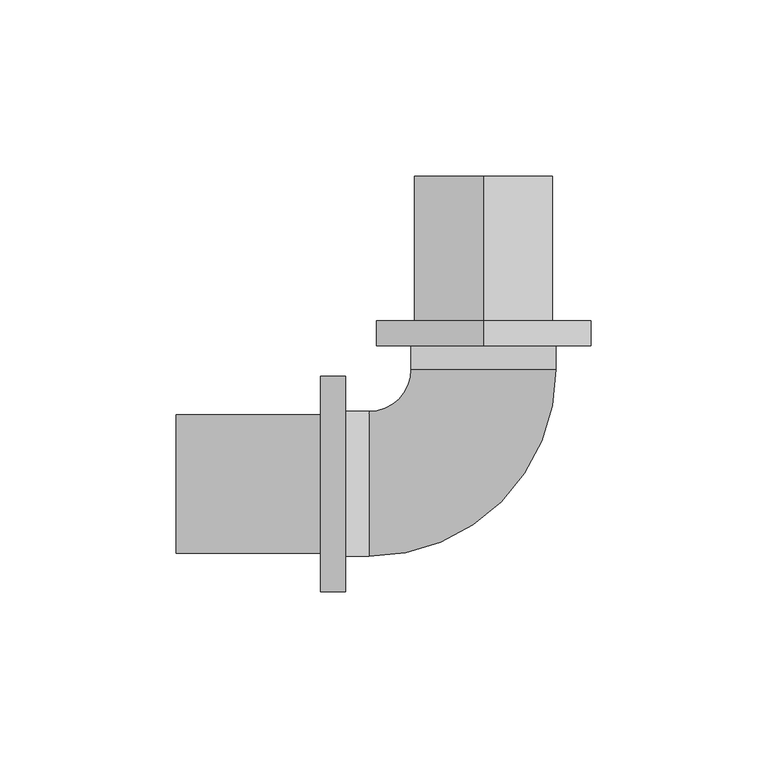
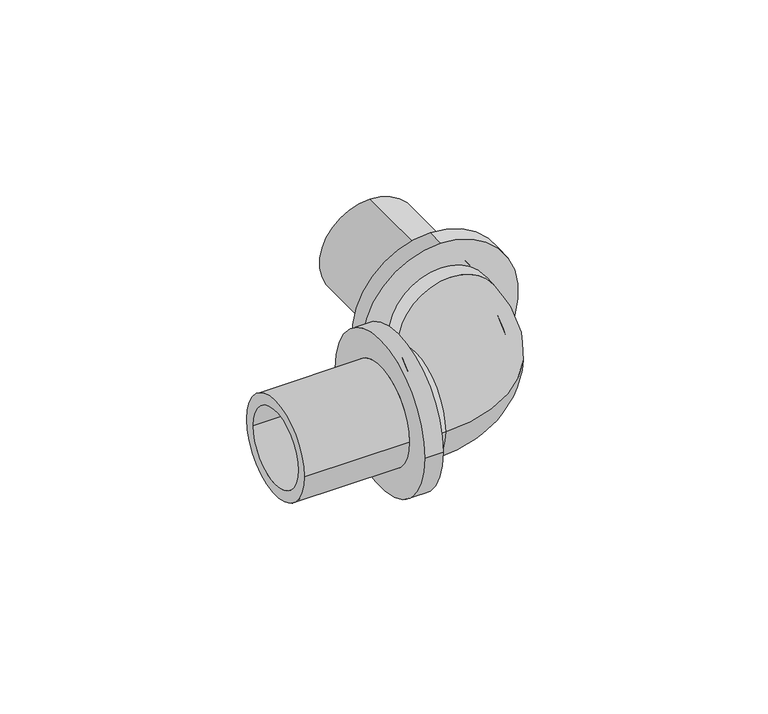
"""IFC4 building model written with IfcOpenShell, lengths in millimetres: pipe fitting geometry, RAUTITAN_Corner_RX+ : RTI RX+ C DN."""

from ifc_helpers import new_model, si_unit, point, frame, origin, place, context, project, spatial, polyline, circle_curve, ellipse_curve, trimmed, source, transform, mapped, element, save
from ifc_brep_helpers import plane_surface, cylinder_surface, revolved_surface, advanced_brep


def pipe_fitting_036417f6(model_context):
    return source(origin(), model_context, "Body", "AdvancedBrep", [
        advanced_brep(
        [(0.0, 46.2, 30.55), (0.0, 46.2, -30.55), (0.0, 39.2, -30.55), (0.0, 39.2, 30.55), (0.0, 87.2, 19.65), (0.0, 87.2, -19.65), (0.0, 46.2, -19.65), (0.0, 46.2, 19.65), (0.0, 39.2, 15.25), (0.0, 39.2, -15.25), (0.0, 87.2, -15.25), (0.0, 87.2, 15.25)],
        [
            (0, 1, circle_curve(frame((0.0, 46.2, 0.0), z_axis=(0.0, -1.0, 0.0), x_axis=(0.0, 0.0, -1.0)), 30.55)),
            (1, 2),
            (2, 3, circle_curve(frame((0.0, 39.2, 0.0), z_axis=(0.0, 1.0, 0.0), x_axis=(0.0, 0.0, -1.0)), 30.55)),
            (3, 0),
            (4, 5, circle_curve(frame((0.0, 87.2, 0.0), z_axis=(0.0, -1.0, 0.0), x_axis=(0.0, 0.0, -1.0)), 19.65)),
            (5, 6),
            (6, 7, circle_curve(frame((0.0, 46.2, 0.0), z_axis=(0.0, 1.0, 0.0), x_axis=(0.0, 0.0, -1.0)), 19.65)),
            (7, 4),
            (8, 9, circle_curve(frame((0.0, 39.2, 0.0), z_axis=(0.0, -1.0, 0.0), x_axis=(0.0, 0.0, -1.0)), 15.25)),
            (9, 10),
            (10, 11, circle_curve(frame((0.0, 87.2, 0.0), z_axis=(0.0, 1.0, 0.0), x_axis=(0.0, 0.0, -1.0)), 15.25)),
            (11, 8),
            (1, 0, circle_curve(frame((0.0, 46.2, 0.0), z_axis=(0.0, -1.0, 0.0), x_axis=(0.0, 0.0, 1.0)), 30.55)),
            (3, 2, circle_curve(frame((0.0, 39.2, 0.0), z_axis=(0.0, 1.0, 0.0), x_axis=(0.0, 0.0, 1.0)), 30.55)),
            (6, 7, circle_curve(frame((0.0, 46.2, 0.0), z_axis=(0.0, -1.0, 0.0), x_axis=(0.0, 0.0, 1.0)), 19.65)),
            (5, 4, circle_curve(frame((0.0, 87.2, 0.0), z_axis=(0.0, -1.0, 0.0), x_axis=(0.0, 0.0, 1.0)), 19.65)),
            (10, 11, circle_curve(frame((0.0, 87.2, 0.0), z_axis=(0.0, -1.0, 0.0), x_axis=(0.0, 0.0, 1.0)), 15.25)),
            (9, 8, circle_curve(frame((0.0, 39.2, 0.0), z_axis=(0.0, -1.0, 0.0), x_axis=(0.0, 0.0, 1.0)), 15.25)),
        ],
        [
            cylinder_surface(frame((0.0, 39.2, 0.0), z_axis=(0.0, 1.0, 0.0), x_axis=(0.0, 0.0, -1.0)), 30.55),
            cylinder_surface(frame((0.0, 39.2, 0.0), z_axis=(0.0, 1.0, 0.0), x_axis=(0.0, 0.0, -1.0)), 19.65),
            revolved_surface(polyline([(0.0, 87.2, -15.25), (0.0, 39.2, -15.25)]), (0.0, 39.2, 0.0), (0.0, 1.0, 0.0)),
            cylinder_surface(frame((0.0, 39.2, 0.0), z_axis=(0.0, 1.0, 0.0), x_axis=(0.0, 0.0, 1.0)), 30.55),
            plane_surface(frame((0.0, 46.2, 0.0), z_axis=(0.0, 1.0, 0.0), x_axis=(0.0, 0.0, 1.0))),
            cylinder_surface(frame((0.0, 39.2, 0.0), z_axis=(0.0, 1.0, 0.0), x_axis=(0.0, 0.0, 1.0)), 19.65),
            plane_surface(frame((0.0, 87.2, 0.0), z_axis=(0.0, 1.0, 0.0), x_axis=(0.0, 0.0, 1.0))),
            revolved_surface(polyline([(0.0, 87.2, 15.25), (0.0, 39.2, 15.25)]), (0.0, 39.2, 0.0), (0.0, 1.0, 0.0)),
            plane_surface(frame((0.0, 39.2, 0.0), z_axis=(0.0, -1.0, 0.0), x_axis=(0.0, 0.0, 1.0))),
        ],
        [
            (0, [[1, 2, 3, 4]]),
            (1, [[5, 6, 7, 8]]),
            (2, [[9, 10, 11, 12]]),
            (3, [[13, -4, 14, -2]]),
            (4, [[-13, -1], [15, -7]]),
            (5, [[16, -8, -15, -6]]),
            (6, [[-16, -5], [17, -11]]),
            (7, [[18, -12, -17, -10]]),
            (8, [[-14, -3], [-18, -9]]),
        ],
    ),
        advanced_brep(
        [(-46.2, -30.55, 0.0), (-46.2, 30.55, 0.0), (-39.2, 30.55, 0.0), (-39.2, -30.55, 0.0), (-87.2, -19.65, 0.0), (-87.2, 19.65, 0.0), (-46.2, 19.65, 0.0), (-46.2, -19.65, 0.0), (-39.2, -15.25, 0.0), (-39.2, 15.25, 0.0), (-87.2, 15.25, 0.0), (-87.2, -15.25, 0.0)],
        [
            (0, 1, circle_curve(frame((-46.2, 0.0, 0.0), z_axis=(1.0, 0.0, 0.0), x_axis=(0.0, 1.0, 0.0)), 30.55)),
            (1, 2),
            (2, 3, circle_curve(frame((-39.2, 0.0, 0.0), z_axis=(-1.0, 0.0, 0.0), x_axis=(0.0, 1.0, 0.0)), 30.55)),
            (3, 0),
            (4, 5, circle_curve(frame((-87.2, 0.0, 0.0), z_axis=(1.0, 0.0, 0.0), x_axis=(0.0, 1.0, 0.0)), 19.65)),
            (5, 6),
            (6, 7, circle_curve(frame((-46.2, 0.0, 0.0), z_axis=(-1.0, 0.0, 0.0), x_axis=(0.0, 1.0, 0.0)), 19.65)),
            (7, 4),
            (8, 9, circle_curve(frame((-39.2, 0.0, 0.0), z_axis=(1.0, 0.0, 0.0), x_axis=(0.0, 1.0, 0.0)), 15.25)),
            (9, 10),
            (10, 11, circle_curve(frame((-87.2, 0.0, 0.0), z_axis=(-1.0, 0.0, 0.0), x_axis=(0.0, 1.0, 0.0)), 15.25)),
            (11, 8),
            (1, 0, circle_curve(frame((-46.2, 0.0, 0.0), z_axis=(1.0, 0.0, 0.0), x_axis=(0.0, -1.0, 0.0)), 30.55)),
            (3, 2, circle_curve(frame((-39.2, 0.0, 0.0), z_axis=(-1.0, 0.0, 0.0), x_axis=(0.0, -1.0, 0.0)), 30.55)),
            (6, 7, circle_curve(frame((-46.2, 0.0, 0.0), z_axis=(1.0, 0.0, 0.0), x_axis=(0.0, -1.0, 0.0)), 19.65)),
            (5, 4, circle_curve(frame((-87.2, 0.0, 0.0), z_axis=(1.0, 0.0, 0.0), x_axis=(0.0, -1.0, 0.0)), 19.65)),
            (10, 11, circle_curve(frame((-87.2, 0.0, 0.0), z_axis=(1.0, 0.0, 0.0), x_axis=(0.0, -1.0, 0.0)), 15.25)),
            (9, 8, circle_curve(frame((-39.2, 0.0, 0.0), z_axis=(1.0, 0.0, 0.0), x_axis=(0.0, -1.0, 0.0)), 15.25)),
        ],
        [
            cylinder_surface(frame((-39.2, 0.0, 0.0), z_axis=(-1.0, 0.0, 0.0), x_axis=(0.0, 1.0, 0.0)), 30.55),
            cylinder_surface(frame((-39.2, 0.0, 0.0), z_axis=(-1.0, 0.0, 0.0), x_axis=(0.0, 1.0, 0.0)), 19.65),
            revolved_surface(polyline([(-87.2, 15.25, 0.0), (-39.2, 15.25, 0.0)]), (-39.2, 0.0, 0.0), (-1.0, 0.0, 0.0)),
            cylinder_surface(frame((-39.2, 0.0, 0.0), z_axis=(-1.0, 0.0, 0.0), x_axis=(0.0, -1.0, 0.0)), 30.55),
            plane_surface(frame((-46.2, 0.0, 0.0), z_axis=(-1.0, 0.0, 0.0), x_axis=(0.0, -1.0, 0.0))),
            cylinder_surface(frame((-39.2, 0.0, 0.0), z_axis=(-1.0, 0.0, 0.0), x_axis=(0.0, -1.0, 0.0)), 19.65),
            plane_surface(frame((-87.2, 0.0, 0.0), z_axis=(-1.0, 0.0, 0.0), x_axis=(0.0, -1.0, 0.0))),
            revolved_surface(polyline([(-87.2, -15.25, 0.0), (-39.2, -15.25, 0.0)]), (-39.2, 0.0, 0.0), (-1.0, 0.0, 0.0)),
            plane_surface(frame((-39.2, 0.0, 0.0), z_axis=(1.0, 0.0, 0.0), x_axis=(0.0, -1.0, 0.0))),
        ],
        [
            (0, [[1, 2, 3, 4]]),
            (1, [[5, 6, 7, 8]]),
            (2, [[9, 10, 11, 12]]),
            (3, [[13, -4, 14, -2]]),
            (4, [[-13, -1], [15, -7]]),
            (5, [[16, -8, -15, -6]]),
            (6, [[-16, -5], [17, -11]]),
            (7, [[18, -12, -17, -10]]),
            (8, [[-14, -3], [-18, -9]]),
        ],
    ),
        advanced_brep(
        [(-39.2, 20.55, 0.0), (-39.2, -20.55, 0.0), (-39.2, 15.25, 0.0), (-39.2, -15.25, 0.0), (-32.5, -15.25, 0.0), (-32.5, 15.25, 0.0), (-32.5, -20.55, 0.0), (-32.5, 20.55, 0.0), (20.55, 39.2, 0.0), (-20.55, 39.2, 0.0), (15.25, 39.2, 0.0), (-15.25, 39.2, 0.0), (-15.25, 32.5, 0.0), (15.25, 32.5, 0.0), (-20.55, 32.5, 0.0), (20.55, 32.5, 0.0)],
        [
            (0, 1, circle_curve(frame((-39.2, 0.0, 0.0), z_axis=(-1.0, 0.0, 0.0), x_axis=(0.0, -1.0, 0.0)), 20.55)),
            (1, 0, circle_curve(frame((-39.2, 0.0, 0.0), z_axis=(-1.0, 0.0, 0.0), x_axis=(0.0, -1.0, 0.0)), 20.55)),
            (2, 3, circle_curve(frame((-39.2, 0.0, 0.0), z_axis=(1.0, 0.0, 0.0), x_axis=(0.0, -1.0, 0.0)), 15.25)),
            (3, 2, circle_curve(frame((-39.2, 0.0, 0.0), z_axis=(1.0, 0.0, 0.0), x_axis=(0.0, -1.0, 0.0)), 15.25)),
            (3, 4),
            (4, 5, circle_curve(frame((-32.5, 0.0, 0.0), z_axis=(1.0, 0.0, 0.0), x_axis=(0.0, -1.0, 0.0)), 15.25)),
            (5, 2),
            (5, 4, circle_curve(frame((-32.5, 0.0, 0.0), z_axis=(1.0, 0.0, 0.0), x_axis=(0.0, -1.0, 0.0)), 15.25)),
            (1, 6),
            (6, 7, circle_curve(frame((-32.5, 0.0, 0.0), z_axis=(-1.0, 0.0, 0.0), x_axis=(0.0, -1.0, 0.0)), 20.55)),
            (7, 0),
            (7, 6, circle_curve(frame((-32.5, 0.0, 0.0), z_axis=(-1.0, 0.0, 0.0), x_axis=(0.0, -1.0, 0.0)), 20.55)),
            (8, 9, circle_curve(frame((0.0, 39.2, 0.0), z_axis=(0.0, 1.0, 0.0), x_axis=(-1.0, 0.0, 0.0)), 20.55)),
            (9, 8, circle_curve(frame((0.0, 39.2, 0.0), z_axis=(0.0, 1.0, 0.0), x_axis=(-1.0, 0.0, 0.0)), 20.55)),
            (10, 11, circle_curve(frame((0.0, 39.2, 0.0), z_axis=(0.0, -1.0, 0.0), x_axis=(-1.0, 0.0, 0.0)), 15.25)),
            (11, 10, circle_curve(frame((0.0, 39.2, 0.0), z_axis=(0.0, -1.0, 0.0), x_axis=(-1.0, 0.0, 0.0)), 15.25)),
            (11, 12),
            (12, 13, circle_curve(frame((0.0, 32.5, 0.0), z_axis=(0.0, -1.0, 0.0), x_axis=(-1.0, 0.0, 0.0)), 15.25)),
            (13, 10),
            (13, 12, circle_curve(frame((0.0, 32.5, 0.0), z_axis=(0.0, -1.0, 0.0), x_axis=(-1.0, 0.0, 0.0)), 15.25)),
            (9, 14),
            (14, 15, circle_curve(frame((0.0, 32.5, 0.0), z_axis=(0.0, 1.0, 0.0), x_axis=(-1.0, 0.0, 0.0)), 20.55)),
            (15, 8),
            (15, 14, circle_curve(frame((0.0, 32.5, 0.0), z_axis=(0.0, 1.0, 0.0), x_axis=(-1.0, 0.0, 0.0)), 20.55)),
            (12, 5, circle_curve(frame((-32.5, 32.5, 0.0), z_axis=(0.0, 0.0, -1.0), x_axis=(0.0, -1.0, 0.0)), 17.25)),
            (4, 13, circle_curve(frame((-32.5, 32.5, 0.0), z_axis=(0.0, 0.0, 1.0), x_axis=(0.0, -1.0, 0.0)), 47.75)),
            (14, 7, circle_curve(frame((-32.5, 32.5, 0.0), z_axis=(0.0, 0.0, -1.0), x_axis=(0.0, -1.0, 0.0)), 11.95)),
            (6, 15, circle_curve(frame((-32.5, 32.5, 0.0), z_axis=(0.0, 0.0, 1.0), x_axis=(0.0, -1.0, 0.0)), 53.05)),
        ],
        [
            plane_surface(frame((-39.2, 0.0, 0.0), z_axis=(-1.0, 0.0, 0.0), x_axis=(0.0, 0.0, 1.0))),
            revolved_surface(polyline([(-39.2, -15.25, 0.0), (-32.5, -15.25, 0.0)]), (-32.5, 0.0, 0.0), (-1.0, 0.0, 0.0)),
            cylinder_surface(frame((-32.5, 0.0, 0.0), z_axis=(1.0, 0.0, 0.0), x_axis=(0.0, -1.0, 0.0)), 20.55),
            plane_surface(frame((0.0, 39.2, 0.0), z_axis=(0.0, 1.0, 0.0), x_axis=(0.0, 0.0, 1.0))),
            revolved_surface(polyline([(-15.25, 39.2, 0.0), (-15.25, 32.5, 0.0)]), (0.0, 32.5, 0.0), (0.0, 1.0, 0.0)),
            cylinder_surface(frame((0.0, 32.5, 0.0), z_axis=(0.0, -1.0, 0.0), x_axis=(-1.0, 0.0, 0.0)), 20.55),
            revolved_surface(trimmed(ellipse_curve(frame((-32.5, 0.0, 0.0), z_axis=(1.0, 0.0, 0.0), x_axis=(0.0, 1.0, 0.0)), 15.25, 15.25), [point((-32.5, -15.25, 0.0))], [point((-32.5, 15.25, 0.0))], True, "CARTESIAN"), (-32.5, 32.5, 0.0), (0.0, 0.0, 1.0)),
            revolved_surface(trimmed(ellipse_curve(frame((-32.5, 0.0, 0.0), z_axis=(1.0, 0.0, 0.0), x_axis=(0.0, 1.0, 0.0)), 15.25, 15.25), [point((-32.5, 15.25, 0.0))], [point((-32.5, -15.25, 0.0))], True, "CARTESIAN"), (-32.5, 32.5, 0.0), (0.0, 0.0, 1.0)),
            revolved_surface(trimmed(ellipse_curve(frame((-32.5, 0.0, 0.0), z_axis=(-1.0, 0.0, 0.0), x_axis=(0.0, 1.0, 0.0)), 20.55, 20.55), [point((-32.5, -20.55, 0.0))], [point((-32.5, 20.55, 0.0))], True, "CARTESIAN"), (-32.5, 32.5, 0.0), (0.0, 0.0, 1.0)),
            revolved_surface(trimmed(ellipse_curve(frame((-32.5, 0.0, 0.0), z_axis=(-1.0, 0.0, 0.0), x_axis=(0.0, 1.0, 0.0)), 20.55, 20.55), [point((-32.5, 20.55, 0.0))], [point((-32.5, -20.55, 0.0))], True, "CARTESIAN"), (-32.5, 32.5, 0.0), (0.0, 0.0, 1.0)),
        ],
        [
            (0, [[1, 2], [3, 4]]),
            (1, [[-4, 5, 6, 7]]),
            (1, [[-3, -7, 8, -5]]),
            (2, [[-2, 9, 10, 11]]),
            (2, [[-1, -11, 12, -9]]),
            (3, [[13, 14], [15, 16]]),
            (4, [[-16, 17, 18, 19]]),
            (4, [[-15, -19, 20, -17]]),
            (5, [[-14, 21, 22, 23]]),
            (5, [[-13, -23, 24, -21]]),
            (6, [[25, -6, 26, -18]]),
            (7, [[-25, -20, -26, -8]]),
            (8, [[27, -10, 28, -22]]),
            (9, [[-27, -24, -28, -12]]),
        ],
    ),
    ])


if __name__ == "__main__":
    model = new_model("IFC4")
    model_context = context("Model", 3, world=origin())
    ifc_project = project(units=[si_unit("LENGTHUNIT", "METRE", prefix="MILLI")], contexts=[model_context])
    site = spatial("IfcSite", under=ifc_project)
    building = spatial("IfcBuilding", under=site)
    placement = place(None, origin())
    pipe_fitting_shape = pipe_fitting_036417f6(model_context)
    element("IfcPipeFitting", 1, ObjectType="RAUTITAN_Corner_RX+ : RTI RX+ C DN", at=placement, inside=building, context=model_context, shape_type="MappedRepresentation", body=[
        mapped(pipe_fitting_shape, transform((0.0, 0.0, 0.0), x_axis=(1.0, 0.0, 0.0), y_axis=(0.0, 1.0, 0.0), z_axis=(0.0, 0.0, 1.0))),
    ])
    save(model, "model.ifc")
